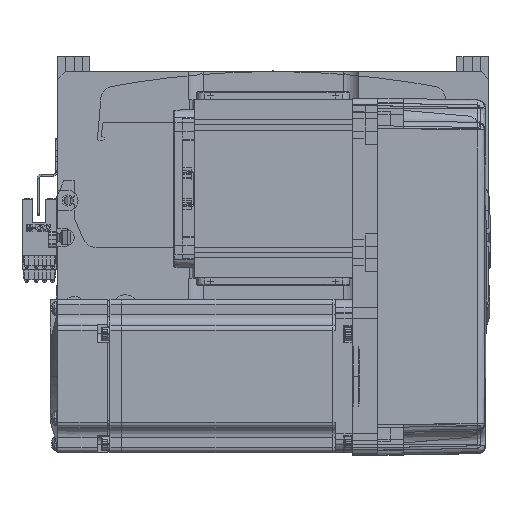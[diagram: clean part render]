
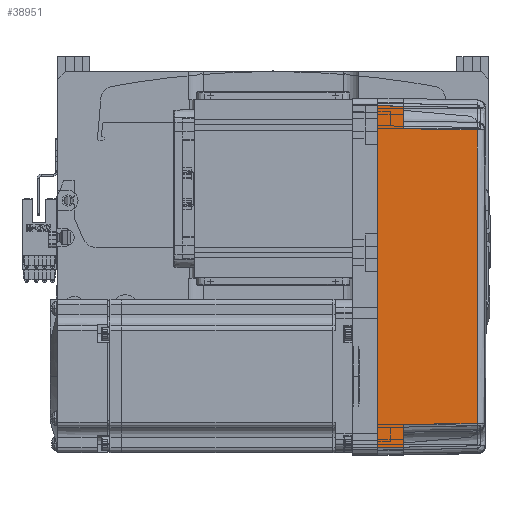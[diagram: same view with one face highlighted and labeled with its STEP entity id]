
A CAD part, top view. The second image highlights one B-rep face of the part: STEP entity #38951.
In plain terms, the highlighted planar face has unit normal (0.018, 0, 1) as drawn and (0, 1, 0.017) by its records, which use the part's own axes.
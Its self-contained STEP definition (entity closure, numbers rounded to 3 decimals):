
#260 = EDGE_CURVE ( 'NONE', #27525, #4671, #4865, .T. ) ;
#1638 = DIRECTION ( 'NONE',  ( 1., 0., 0. ) ) ;
#2570 = CARTESIAN_POINT ( 'NONE',  ( -67., 36., 0. ) ) ;
#3258 = ORIENTED_EDGE ( 'NONE', *, *, #27374, .T. ) ;
#3837 = VERTEX_POINT ( 'NONE', #60546 ) ;
#4514 = LINE ( 'NONE', #18992, #64010 ) ;
#4671 = VERTEX_POINT ( 'NONE', #14006 ) ;
#4865 = LINE ( 'NONE', #35300, #10151 ) ;
#6513 = EDGE_LOOP ( 'NONE', ( #3258, #50699, #13879, #16181, #32759, #38540, #28260, #15048 ) ) ;
#7280 = DIRECTION ( 'NONE',  ( 0.017, -0.017, 1. ) ) ;
#9334 = DIRECTION ( 'NONE',  ( 1., 0., 0. ) ) ;
#10139 = CARTESIAN_POINT ( 'NONE',  ( 67., 36., 0. ) ) ;
#10151 = VECTOR ( 'NONE', #42393, 1000. ) ;
#11749 = CARTESIAN_POINT ( 'NONE',  ( -58., 35.825, 10. ) ) ;
#13879 = ORIENTED_EDGE ( 'NONE', *, *, #60159, .T. ) ;
#14006 = CARTESIAN_POINT ( 'NONE',  ( 66.826, 35.825, 10. ) ) ;
#15048 = ORIENTED_EDGE ( 'NONE', *, *, #41047, .F. ) ;
#15242 = EDGE_CURVE ( 'NONE', #33080, #28123, #65500, .T. ) ;
#16109 = VECTOR ( 'NONE', #29610, 1000. ) ;
#16181 = ORIENTED_EDGE ( 'NONE', *, *, #15242, .T. ) ;
#18464 = VERTEX_POINT ( 'NONE', #36094 ) ;
#18992 = CARTESIAN_POINT ( 'NONE',  ( 0., 36., 0. ) ) ;
#19215 = DIRECTION ( 'NONE',  ( 1., 0., 0. ) ) ;
#21486 = LINE ( 'NONE', #44820, #63500 ) ;
#25188 = CARTESIAN_POINT ( 'NONE',  ( 57.495, 35.32, 38.985 ) ) ;
#27374 = EDGE_CURVE ( 'NONE', #67978, #18464, #68191, .T. ) ;
#27525 = VERTEX_POINT ( 'NONE', #10139 ) ;
#28123 = VERTEX_POINT ( 'NONE', #28697 ) ;
#28260 = ORIENTED_EDGE ( 'NONE', *, *, #260, .F. ) ;
#28619 = CARTESIAN_POINT ( 'NONE',  ( -67., 36., 0. ) ) ;
#28697 = CARTESIAN_POINT ( 'NONE',  ( 57.495, 35.32, 38.985 ) ) ;
#29610 = DIRECTION ( 'NONE',  ( 0.017, 0.017, -1. ) ) ;
#29844 = CARTESIAN_POINT ( 'NONE',  ( 57.495, 35.32, 38.985 ) ) ;
#30309 = CARTESIAN_POINT ( 'NONE',  ( 19.165, 35.316, 39.181 ) ) ;
#31309 = CARTESIAN_POINT ( 'NONE',  ( 70., 35.825, 10. ) ) ;
#32759 = ORIENTED_EDGE ( 'NONE', *, *, #59531, .T. ) ;
#33080 = VERTEX_POINT ( 'NONE', #59363 ) ;
#35300 = CARTESIAN_POINT ( 'NONE',  ( 67.001, 36.001, -0.052 ) ) ;
#35362 = VERTEX_POINT ( 'NONE', #11749 ) ;
#35493 = DIRECTION ( 'NONE',  ( 0.017, -0.017, 1. ) ) ;
#35567 = CARTESIAN_POINT ( 'NONE',  ( -58., 35.825, 10. ) ) ;
#36094 = CARTESIAN_POINT ( 'NONE',  ( -66.826, 35.825, 10. ) ) ;
#36133 = LINE ( 'NONE', #29844, #16109 ) ;
#36154 = VECTOR ( 'NONE', #7280, 1000. ) ;
#38540 = ORIENTED_EDGE ( 'NONE', *, *, #48043, .T. ) ;
#38951 = ADVANCED_FACE ( 'NONE', ( #41551 ), #65480, .T. ) ;
#39123 = EDGE_CURVE ( 'NONE', #18464, #35362, #21486, .T. ) ;
#40602 = LINE ( 'NONE', #31309, #68732 ) ;
#41047 = EDGE_CURVE ( 'NONE', #67978, #27525, #4514, .T. ) ;
#41257 = CARTESIAN_POINT ( 'NONE',  ( -57.495, 35.32, 38.985 ) ) ;
#41551 = FACE_OUTER_BOUND ( 'NONE', #6513, .T. ) ;
#41740 = CARTESIAN_POINT ( 'NONE',  ( -19.165, 35.316, 39.181 ) ) ;
#42393 = DIRECTION ( 'NONE',  ( -0.017, -0.017, 1. ) ) ;
#44820 = CARTESIAN_POINT ( 'NONE',  ( 70., 35.825, 10. ) ) ;
#46206 = VECTOR ( 'NONE', #35493, 1000. ) ;
#47564 = LINE ( 'NONE', #35567, #36154 ) ;
#48043 = EDGE_CURVE ( 'NONE', #3837, #4671, #40602, .T. ) ;
#50245 = AXIS2_PLACEMENT_3D ( 'NONE', #64993, #53707, #71150 ) ;
#50699 = ORIENTED_EDGE ( 'NONE', *, *, #39123, .T. ) ;
#53707 = DIRECTION ( 'NONE',  ( 0., 1., 0.017 ) ) ;
#59363 = CARTESIAN_POINT ( 'NONE',  ( -57.495, 35.32, 38.985 ) ) ;
#59531 = EDGE_CURVE ( 'NONE', #28123, #3837, #36133, .T. ) ;
#60159 = EDGE_CURVE ( 'NONE', #35362, #33080, #47564, .T. ) ;
#60546 = CARTESIAN_POINT ( 'NONE',  ( 58., 35.825, 10. ) ) ;
#63500 = VECTOR ( 'NONE', #1638, 1000. ) ;
#64010 = VECTOR ( 'NONE', #19215, 1000. ) ;
#64993 = CARTESIAN_POINT ( 'NONE',  ( 70., 36., 0. ) ) ;
#65480 = PLANE ( 'NONE',  #50245 ) ;
#65500 = B_SPLINE_CURVE_WITH_KNOTS ( 'NONE', 3,
 ( #41257, #41740, #30309, #25188 ),
 .UNSPECIFIED., .F., .F.,
 ( 4, 4 ),
 ( 0., 1. ),
 .UNSPECIFIED. ) ;
#67978 = VERTEX_POINT ( 'NONE', #28619 ) ;
#68191 = LINE ( 'NONE', #2570, #46206 ) ;
#68732 = VECTOR ( 'NONE', #9334, 1000. ) ;
#71150 = DIRECTION ( 'NONE',  ( 0., -0.017, 1. ) ) ;
